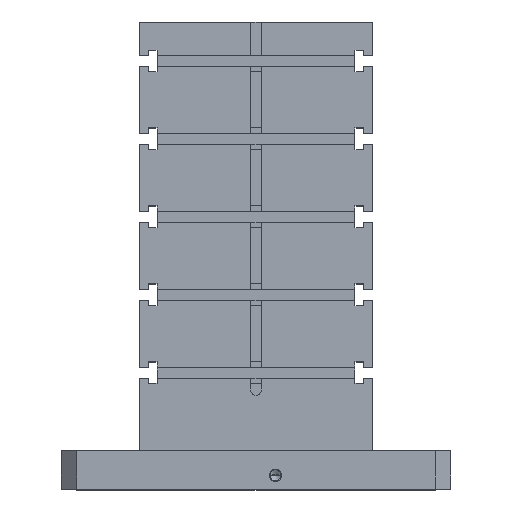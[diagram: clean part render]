
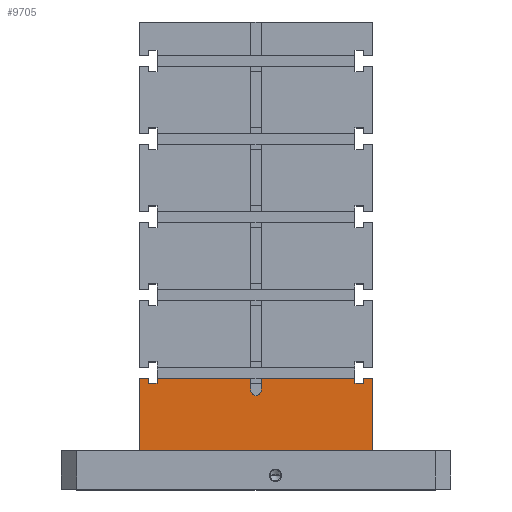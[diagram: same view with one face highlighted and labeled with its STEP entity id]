
A CAD part, top view. The second image highlights one B-rep face of the part: STEP entity #9705.
In plain terms, the highlighted planar face has unit normal (0, 0, 1).
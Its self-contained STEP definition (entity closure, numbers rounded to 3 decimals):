
#219=CARTESIAN_POINT('',(2.,104.,150.));
#220=DIRECTION('',(0.,0.,-1.));
#221=DIRECTION('',(-0.222,-0.975,0.));
#222=AXIS2_PLACEMENT_3D('',#219,#220,#221);
#224=CARTESIAN_POINT('',(-2.,104.,150.));
#225=DIRECTION('',(0.,0.,1.));
#226=DIRECTION('',(0.222,-0.975,0.));
#227=AXIS2_PLACEMENT_3D('',#224,#225,#226);
#229=DIRECTION('',(0.,1.,0.));
#230=VECTOR('',#229,14.);
#231=CARTESIAN_POINT('',(7.,104.,150.));
#232=LINE('',#231,#230);
#233=DIRECTION('',(1.,0.,0.));
#234=VECTOR('',#233,120.);
#235=CARTESIAN_POINT('',(7.,118.,150.));
#236=LINE('',#235,#234);
#237=DIRECTION('',(0.,1.,0.));
#238=VECTOR('',#237,7.);
#239=CARTESIAN_POINT('',(127.,111.,150.));
#240=LINE('',#239,#238);
#241=DIRECTION('',(-1.,0.,0.));
#242=VECTOR('',#241,11.);
#243=CARTESIAN_POINT('',(138.,111.,150.));
#244=LINE('',#243,#242);
#245=DIRECTION('',(0.,-1.,0.));
#246=VECTOR('',#245,7.);
#247=CARTESIAN_POINT('',(138.,118.,150.));
#248=LINE('',#247,#246);
#249=DIRECTION('',(1.,0.,0.));
#250=VECTOR('',#249,12.);
#251=CARTESIAN_POINT('',(138.,118.,150.));
#252=LINE('',#251,#250);
#253=DIRECTION('',(0.,1.,0.));
#254=VECTOR('',#253,93.);
#255=CARTESIAN_POINT('',(-150.,25.,150.));
#256=LINE('',#255,#254);
#257=DIRECTION('',(1.,0.,0.));
#258=VECTOR('',#257,12.);
#259=CARTESIAN_POINT('',(-150.,118.,150.));
#260=LINE('',#259,#258);
#261=DIRECTION('',(0.,-1.,0.));
#262=VECTOR('',#261,7.);
#263=CARTESIAN_POINT('',(-138.,118.,150.));
#264=LINE('',#263,#262);
#265=DIRECTION('',(1.,0.,0.));
#266=VECTOR('',#265,11.);
#267=CARTESIAN_POINT('',(-138.,111.,150.));
#268=LINE('',#267,#266);
#269=DIRECTION('',(0.,1.,0.));
#270=VECTOR('',#269,7.);
#271=CARTESIAN_POINT('',(-127.,111.,150.));
#272=LINE('',#271,#270);
#273=DIRECTION('',(1.,0.,0.));
#274=VECTOR('',#273,120.);
#275=CARTESIAN_POINT('',(-127.,118.,150.));
#276=LINE('',#275,#274);
#277=DIRECTION('',(0.,1.,0.));
#278=VECTOR('',#277,14.);
#279=CARTESIAN_POINT('',(-7.,104.,150.));
#280=LINE('',#279,#278);
#3057=DIRECTION('',(0.,1.,0.));
#3058=VECTOR('',#3057,93.);
#3059=CARTESIAN_POINT('',(150.,25.,150.));
#3060=LINE('',#3059,#3058);
#5275=DIRECTION('',(1.,0.,0.));
#5276=VECTOR('',#5275,300.);
#5277=CARTESIAN_POINT('',(-150.,25.,150.));
#5278=LINE('',#5277,#5276);
#6947=CARTESIAN_POINT('',(-150.,25.,150.));
#6948=CARTESIAN_POINT('',(150.,25.,150.));
#6949=VERTEX_POINT('',#6947);
#6950=VERTEX_POINT('',#6948);
#7217=CARTESIAN_POINT('',(150.,118.,150.));
#7219=VERTEX_POINT('',#7217);
#7233=CARTESIAN_POINT('',(-150.,118.,150.));
#7235=VERTEX_POINT('',#7233);
#7381=CARTESIAN_POINT('',(-138.,111.,150.));
#7383=VERTEX_POINT('',#7381);
#7385=CARTESIAN_POINT('',(-127.,111.,150.));
#7387=VERTEX_POINT('',#7385);
#7661=CARTESIAN_POINT('',(-138.,118.,150.));
#7662=VERTEX_POINT('',#7661);
#7663=CARTESIAN_POINT('',(-127.,118.,150.));
#7664=VERTEX_POINT('',#7663);
#8145=CARTESIAN_POINT('',(138.,118.,150.));
#8146=CARTESIAN_POINT('',(138.,111.,150.));
#8147=VERTEX_POINT('',#8145);
#8148=VERTEX_POINT('',#8146);
#8149=CARTESIAN_POINT('',(127.,111.,150.));
#8150=VERTEX_POINT('',#8149);
#8151=CARTESIAN_POINT('',(127.,118.,150.));
#8152=VERTEX_POINT('',#8151);
#8849=CARTESIAN_POINT('',(-7.,104.,150.));
#8850=VERTEX_POINT('',#8849);
#8893=CARTESIAN_POINT('',(-7.,118.,150.));
#8894=VERTEX_POINT('',#8893);
#8895=CARTESIAN_POINT('',(7.,118.,150.));
#8896=VERTEX_POINT('',#8895);
#8897=CARTESIAN_POINT('',(0.,95.225,150.));
#8898=VERTEX_POINT('',#8897);
#8899=CARTESIAN_POINT('',(7.,104.,150.));
#8900=VERTEX_POINT('',#8899);
#9670=CARTESIAN_POINT('',(-150.,25.,150.));
#9671=DIRECTION('',(0.,0.,1.));
#9672=DIRECTION('',(1.,0.,0.));
#9673=AXIS2_PLACEMENT_3D('',#9670,#9671,#9672);
#9674=PLANE('',#9673);
#9676=ORIENTED_EDGE('',*,*,#9675,.F.);
#9678=ORIENTED_EDGE('',*,*,#9677,.T.);
#9679=ORIENTED_EDGE('',*,*,#9433,.T.);
#9680=ORIENTED_EDGE('',*,*,#9536,.T.);
#9682=ORIENTED_EDGE('',*,*,#9681,.F.);
#9684=ORIENTED_EDGE('',*,*,#9683,.F.);
#9686=ORIENTED_EDGE('',*,*,#9685,.F.);
#9687=ORIENTED_EDGE('',*,*,#9571,.T.);
#9689=ORIENTED_EDGE('',*,*,#9688,.F.);
#9691=ORIENTED_EDGE('',*,*,#9690,.F.);
#9693=ORIENTED_EDGE('',*,*,#9692,.T.);
#9694=ORIENTED_EDGE('',*,*,#9551,.T.);
#9696=ORIENTED_EDGE('',*,*,#9695,.T.);
#9698=ORIENTED_EDGE('',*,*,#9697,.T.);
#9700=ORIENTED_EDGE('',*,*,#9699,.T.);
#9701=ORIENTED_EDGE('',*,*,#9528,.T.);
#9702=ORIENTED_EDGE('',*,*,#9581,.F.);
#9703=EDGE_LOOP('',(#9676,#9678,#9679,#9680,#9682,#9684,#9686,#9687,#9689,#9691,
#9693,#9694,#9696,#9698,#9700,#9701,#9702));
#9704=FACE_OUTER_BOUND('',#9703,.F.);
#9705=ADVANCED_FACE('',(#9704),#9674,.T.);
#223=CIRCLE('',#222,9.);
#228=CIRCLE('',#227,9.);
#9433=EDGE_CURVE('',#8900,#8896,#232,.T.);
#9528=EDGE_CURVE('',#7664,#8894,#276,.T.);
#9536=EDGE_CURVE('',#8896,#8152,#236,.T.);
#9551=EDGE_CURVE('',#7235,#7662,#260,.T.);
#9571=EDGE_CURVE('',#8147,#7219,#252,.T.);
#9581=EDGE_CURVE('',#8850,#8894,#280,.T.);
#9675=EDGE_CURVE('',#8898,#8850,#223,.T.);
#9677=EDGE_CURVE('',#8898,#8900,#228,.T.);
#9681=EDGE_CURVE('',#8150,#8152,#240,.T.);
#9683=EDGE_CURVE('',#8148,#8150,#244,.T.);
#9685=EDGE_CURVE('',#8147,#8148,#248,.T.);
#9688=EDGE_CURVE('',#6950,#7219,#3060,.T.);
#9690=EDGE_CURVE('',#6949,#6950,#5278,.T.);
#9692=EDGE_CURVE('',#6949,#7235,#256,.T.);
#9695=EDGE_CURVE('',#7662,#7383,#264,.T.);
#9697=EDGE_CURVE('',#7383,#7387,#268,.T.);
#9699=EDGE_CURVE('',#7387,#7664,#272,.T.);
